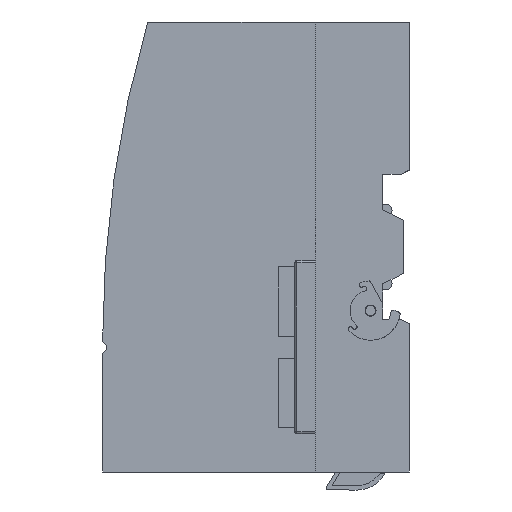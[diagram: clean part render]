
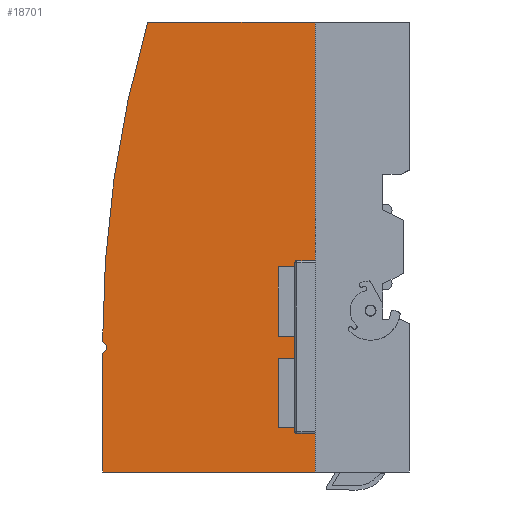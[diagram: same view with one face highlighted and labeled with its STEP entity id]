
A CAD part, left-side view. The second image highlights one B-rep face of the part: STEP entity #18701.
In plain terms, the highlighted planar face has unit normal (-1, 0, 0).
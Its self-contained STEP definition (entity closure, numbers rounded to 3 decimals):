
#50 = CARTESIAN_POINT ( 'NONE',  ( 57.765, -16.749, -16.749 ) ) ;
#207 = ORIENTED_EDGE ( 'NONE', *, *, #16293, .F. ) ;
#448 = VERTEX_POINT ( 'NONE', #9993 ) ;
#1180 = VECTOR ( 'NONE', #38258, 1000. ) ;
#2246 = DIRECTION ( 'NONE',  ( 0., 0.707, 0.707 ) ) ;
#2440 = CARTESIAN_POINT ( 'NONE',  ( 57.765, 90.249, -90.249 ) ) ;
#2593 = EDGE_CURVE ( 'NONE', #4089, #13784, #22802, .T. ) ;
#2750 = FACE_OUTER_BOUND ( 'NONE', #30745, .T. ) ;
#3355 = DIRECTION ( 'NONE',  ( 0., 0., 1. ) ) ;
#3926 = CARTESIAN_POINT ( 'NONE',  ( 57.765, 23., -137.497 ) ) ;
#3969 = CARTESIAN_POINT ( 'NONE',  ( 57.765, 64., -27.497 ) ) ;
#4089 = VERTEX_POINT ( 'NONE', #3926 ) ;
#5918 = LINE ( 'NONE', #50, #29688 ) ;
#6037 = DIRECTION ( 'NONE',  ( 0., 0., 1. ) ) ;
#8158 = EDGE_CURVE ( 'NONE', #448, #4089, #28598, .T. ) ;
#8370 = CARTESIAN_POINT ( 'NONE',  ( 57.765, 75., -137.497 ) ) ;
#8519 = VECTOR ( 'NONE', #20438, 1000. ) ;
#9649 = CARTESIAN_POINT ( 'NONE',  ( 57.765, 75., -108.497 ) ) ;
#9993 = CARTESIAN_POINT ( 'NONE',  ( 57.765, 23., -27.497 ) ) ;
#10428 = VERTEX_POINT ( 'NONE', #11592 ) ;
#11380 = PLANE ( 'NONE',  #21863 ) ;
#11592 = CARTESIAN_POINT ( 'NONE',  ( 57.765, 75., -105.497 ) ) ;
#12345 = CARTESIAN_POINT ( 'NONE',  ( 57.765, 75., -137.497 ) ) ;
#12406 = CARTESIAN_POINT ( 'NONE',  ( 57.765, 23., -27.497 ) ) ;
#13563 = EDGE_CURVE ( 'NONE', #18496, #13784, #18224, .T. ) ;
#13784 = VERTEX_POINT ( 'NONE', #8370 ) ;
#14709 = DIRECTION ( 'NONE',  ( 0., 0., -1. ) ) ;
#15234 = VECTOR ( 'NONE', #3355, 1000. ) ;
#16293 = EDGE_CURVE ( 'NONE', #38475, #16931, #18258, .T. ) ;
#16931 = VERTEX_POINT ( 'NONE', #20122 ) ;
#17318 = CARTESIAN_POINT ( 'NONE',  ( 57.765, 23., -137.497 ) ) ;
#17890 = LINE ( 'NONE', #12406, #8519 ) ;
#17942 = VECTOR ( 'NONE', #27019, 1000. ) ;
#18224 = LINE ( 'NONE', #12345, #17942 ) ;
#18258 = LINE ( 'NONE', #21574, #15234 ) ;
#18496 = VERTEX_POINT ( 'NONE', #9649 ) ;
#18701 = ADVANCED_FACE ( 'NONE', ( #2750 ), #11380, .F. ) ;
#18996 = ORIENTED_EDGE ( 'NONE', *, *, #13563, .T. ) ;
#20122 = CARTESIAN_POINT ( 'NONE',  ( 57.765, 74., -106.497 ) ) ;
#20438 = DIRECTION ( 'NONE',  ( 0., 1., 0. ) ) ;
#20769 = EDGE_CURVE ( 'NONE', #16931, #10428, #32786, .T. ) ;
#20920 = CARTESIAN_POINT ( 'NONE',  ( 57.765, -207.045, -105.497 ) ) ;
#21574 = CARTESIAN_POINT ( 'NONE',  ( 57.765, 74., 0. ) ) ;
#21751 = ORIENTED_EDGE ( 'NONE', *, *, #25632, .F. ) ;
#21863 = AXIS2_PLACEMENT_3D ( 'NONE', #32145, #35857, #14709 ) ;
#22802 = LINE ( 'NONE', #17318, #1180 ) ;
#24619 = ORIENTED_EDGE ( 'NONE', *, *, #2593, .F. ) ;
#25449 = AXIS2_PLACEMENT_3D ( 'NONE', #20920, #32865, #6037 ) ;
#25632 = EDGE_CURVE ( 'NONE', #18496, #38475, #5918, .T. ) ;
#27019 = DIRECTION ( 'NONE',  ( 0., 0., -1. ) ) ;
#27401 = EDGE_CURVE ( 'NONE', #448, #33207, #17890, .T. ) ;
#27833 = EDGE_CURVE ( 'NONE', #10428, #33207, #31715, .T. ) ;
#27836 = ORIENTED_EDGE ( 'NONE', *, *, #20769, .F. ) ;
#28231 = VECTOR ( 'NONE', #2246, 1000. ) ;
#28598 = LINE ( 'NONE', #37791, #36656 ) ;
#29688 = VECTOR ( 'NONE', #35501, 1000. ) ;
#30169 = CARTESIAN_POINT ( 'NONE',  ( 57.765, 74., -107.497 ) ) ;
#30745 = EDGE_LOOP ( 'NONE', ( #207, #21751, #18996, #24619, #31183, #32468, #36271, #27836 ) ) ;
#31183 = ORIENTED_EDGE ( 'NONE', *, *, #8158, .F. ) ;
#31715 = CIRCLE ( 'NONE', #25449, 282.045 ) ;
#32145 = CARTESIAN_POINT ( 'NONE',  ( 57.765, 23., -137.497 ) ) ;
#32468 = ORIENTED_EDGE ( 'NONE', *, *, #27401, .T. ) ;
#32786 = LINE ( 'NONE', #2440, #28231 ) ;
#32865 = DIRECTION ( 'NONE',  ( 1., 0., 0. ) ) ;
#33207 = VERTEX_POINT ( 'NONE', #3969 ) ;
#34653 = DIRECTION ( 'NONE',  ( 0., 0., -1. ) ) ;
#35501 = DIRECTION ( 'NONE',  ( 0., -0.707, 0.707 ) ) ;
#35857 = DIRECTION ( 'NONE',  ( 1., 0., 0. ) ) ;
#36271 = ORIENTED_EDGE ( 'NONE', *, *, #27833, .F. ) ;
#36656 = VECTOR ( 'NONE', #34653, 1000. ) ;
#37791 = CARTESIAN_POINT ( 'NONE',  ( 57.765, 23., -137.497 ) ) ;
#38258 = DIRECTION ( 'NONE',  ( 0., 1., 0. ) ) ;
#38475 = VERTEX_POINT ( 'NONE', #30169 ) ;
